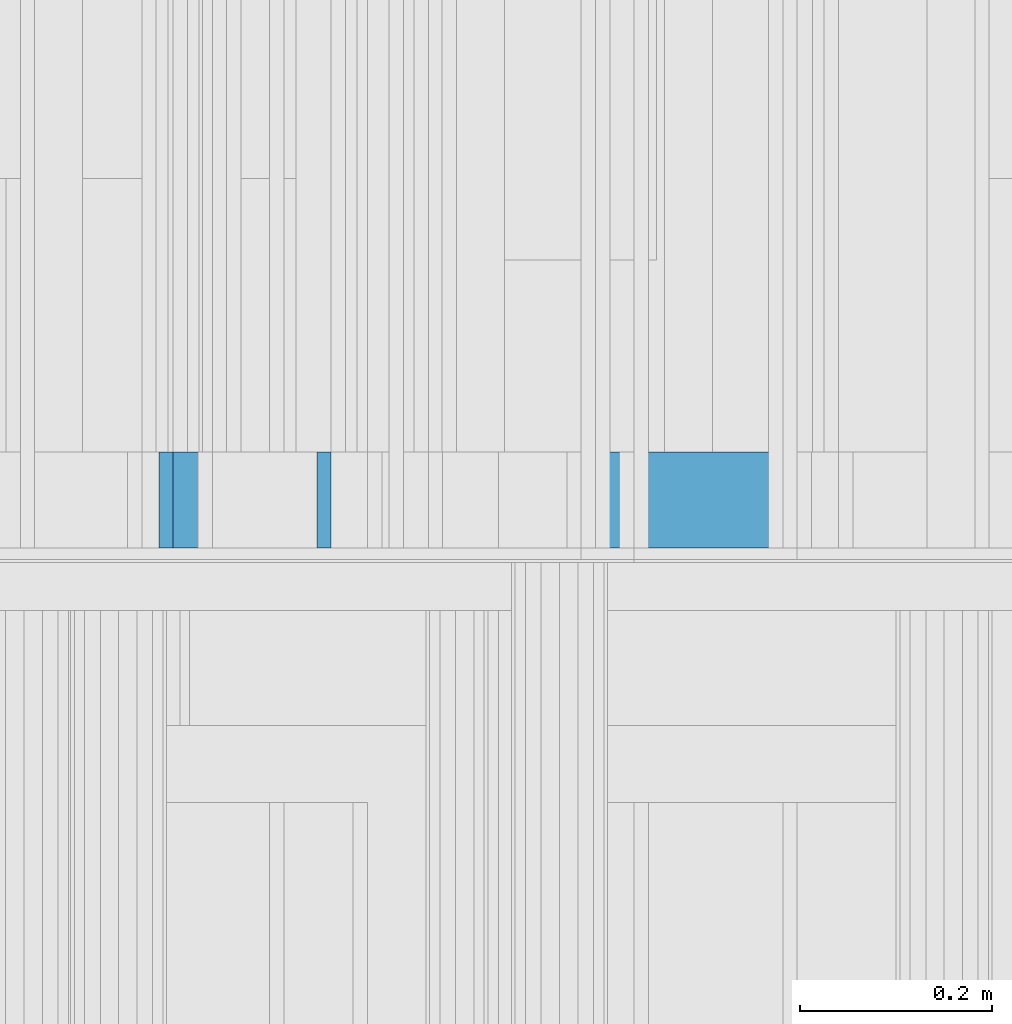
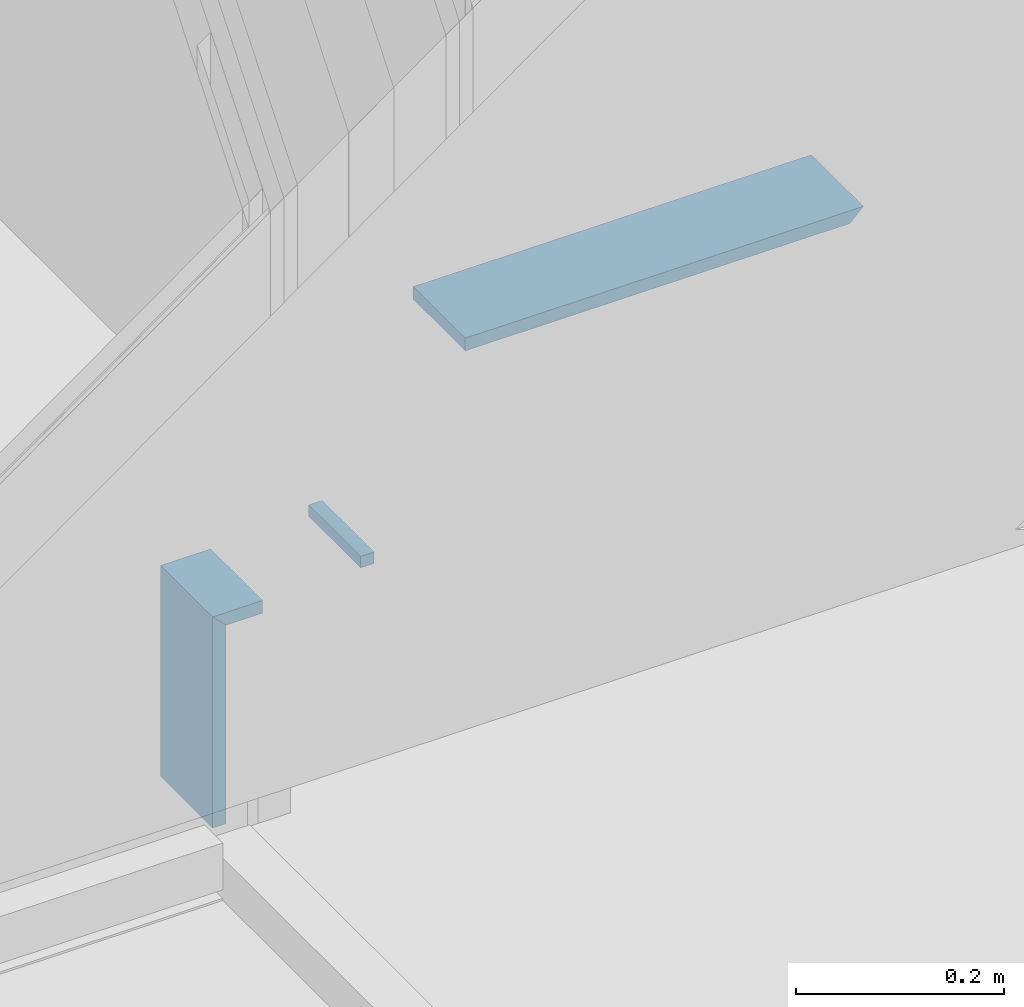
# One storey, part 228 of 583: 4 building element parts, 4 elements without a shape of their own.
"""IFC2X3 building model written with IfcOpenShell, lengths in metres."""

from ifc_helpers import new_model, entity, si_unit, converted_unit, derived_unit, money_unit, direction, frame, frame_2d, origin_with_axes, place, context, subcontext, project, spatial, polyline, rectangle, outline, extrude, material, type_object, element, aggregate, save


model = new_model("IFC2X3")

# Units and contexts
model_context = context("Model", 3, precision=1e-05, world=origin_with_axes(), true_north=direction((0.0, 1.0)))
body_context = subcontext(model_context, "Body", "Model", "MODEL_VIEW", scale=1.0)
ifc_project = project(units=[si_unit("LENGTHUNIT", "METRE"), si_unit("AREAUNIT", "SQUARE_METRE"), si_unit("VOLUMEUNIT", "CUBIC_METRE"), si_unit("ABSORBEDDOSEUNIT", "GRAY"), si_unit("AMOUNTOFSUBSTANCEUNIT", "MOLE"), si_unit("DOSEEQUIVALENTUNIT", "SIEVERT"), si_unit("ELECTRICCAPACITANCEUNIT", "FARAD"), si_unit("ELECTRICCHARGEUNIT", "COULOMB"), si_unit("ELECTRICCONDUCTANCEUNIT", "SIEMENS"), si_unit("ELECTRICCURRENTUNIT", "AMPERE"), si_unit("ELECTRICRESISTANCEUNIT", "OHM"), si_unit("ELECTRICVOLTAGEUNIT", "VOLT"), si_unit("ENERGYUNIT", "JOULE"), si_unit("FORCEUNIT", "NEWTON"), si_unit("FREQUENCYUNIT", "HERTZ"), si_unit("ILLUMINANCEUNIT", "LUX"), si_unit("INDUCTANCEUNIT", "HENRY"), si_unit("LUMINOUSFLUXUNIT", "LUMEN"), si_unit("LUMINOUSINTENSITYUNIT", "CANDELA"), si_unit("MAGNETICFLUXDENSITYUNIT", "TESLA"), si_unit("MAGNETICFLUXUNIT", "WEBER"), si_unit("MASSUNIT", "GRAM"), converted_unit("PLANEANGLEUNIT", "degree", entity("IfcReal", 0.0174532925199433), si_unit("PLANEANGLEUNIT", "RADIAN"), dimensions=[0, 0, 0, 0, 0, 0, 0]), si_unit("POWERUNIT", "WATT"), si_unit("PRESSUREUNIT", "PASCAL"), si_unit("RADIOACTIVITYUNIT", "BECQUEREL"), si_unit("SOLIDANGLEUNIT", "STERADIAN"), si_unit("THERMODYNAMICTEMPERATUREUNIT", "KELVIN"), si_unit("TIMEUNIT", "SECOND"), derived_unit("ACCELERATIONUNIT", [(si_unit("LENGTHUNIT", "METRE"), 1), (si_unit("TIMEUNIT", "SECOND"), -2)]), derived_unit("ANGULARVELOCITYUNIT", [(converted_unit("PLANEANGLEUNIT", "degree", entity("IfcReal", 0.0174532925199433), si_unit("PLANEANGLEUNIT", "RADIAN"), dimensions=[0, 0, 0, 0, 0, 0, 0]), 1), (si_unit("TIMEUNIT", "SECOND"), -1)]), derived_unit("CURVATUREUNIT", [(converted_unit("PLANEANGLEUNIT", "degree", entity("IfcReal", 0.0174532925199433), si_unit("PLANEANGLEUNIT", "RADIAN"), dimensions=[0, 0, 0, 0, 0, 0, 0]), 1), (si_unit("LENGTHUNIT", "METRE"), -1)]), derived_unit("DYNAMICVISCOSITYUNIT", [(si_unit("PRESSUREUNIT", "PASCAL"), 1), (si_unit("TIMEUNIT", "SECOND"), 1)]), derived_unit("HEATFLUXDENSITYUNIT", [(si_unit("POWERUNIT", "WATT"), 1), (si_unit("LENGTHUNIT", "METRE"), -2)]), derived_unit("HEATINGVALUEUNIT", [(si_unit("ENERGYUNIT", "JOULE"), 1), (si_unit("MASSUNIT", "GRAM"), -1)]), derived_unit("INTEGERCOUNTRATEUNIT", [(si_unit("TIMEUNIT", "SECOND"), -1)]), derived_unit("IONCONCENTRATIONUNIT", [(si_unit("MASSUNIT", "GRAM"), 1), (si_unit("VOLUMEUNIT", "CUBIC_METRE"), -1)]), derived_unit("ISOTHERMALMOISTURECAPACITYUNIT", [(si_unit("VOLUMEUNIT", "CUBIC_METRE"), 1), (si_unit("MASSUNIT", "GRAM"), -1)]), derived_unit("KINEMATICVISCOSITYUNIT", [(si_unit("AREAUNIT", "SQUARE_METRE"), 1), (si_unit("TIMEUNIT", "SECOND"), -1)]), derived_unit("LINEARFORCEUNIT", [(si_unit("FORCEUNIT", "NEWTON"), 1), (si_unit("LENGTHUNIT", "METRE"), -1)]), derived_unit("LINEARMOMENTUNIT", [(si_unit("FORCEUNIT", "NEWTON"), 1), (si_unit("LENGTHUNIT", "METRE"), -1)]), derived_unit("LINEARSTIFFNESSUNIT", [(si_unit("FORCEUNIT", "NEWTON"), 1), (si_unit("LENGTHUNIT", "METRE"), -1)]), derived_unit("LINEARVELOCITYUNIT", [(si_unit("LENGTHUNIT", "METRE"), 1), (si_unit("TIMEUNIT", "SECOND"), -1)]), derived_unit("LUMINOUSINTENSITYDISTRIBUTIONUNIT", [(si_unit("LUMINOUSINTENSITYUNIT", "CANDELA"), 1), (si_unit("LUMINOUSFLUXUNIT", "LUMEN"), -1)]), derived_unit("MASSDENSITYUNIT", [(si_unit("MASSUNIT", "GRAM"), 1), (si_unit("VOLUMEUNIT", "CUBIC_METRE"), -1)]), derived_unit("MASSFLOWRATEUNIT", [(si_unit("MASSUNIT", "GRAM"), 1), (si_unit("TIMEUNIT", "SECOND"), -1)]), derived_unit("MASSPERLENGTHUNIT", [(si_unit("MASSUNIT", "GRAM"), 1), (si_unit("LENGTHUNIT", "METRE"), -1)]), derived_unit("MODULUSOFELASTICITYUNIT", [(si_unit("FORCEUNIT", "NEWTON"), 1), (si_unit("AREAUNIT", "SQUARE_METRE"), -1)]), derived_unit("MODULUSOFLINEARSUBGRADEREACTIONUNIT", [(si_unit("FORCEUNIT", "NEWTON"), 1), (si_unit("LENGTHUNIT", "METRE"), -2)]), derived_unit("MODULUSOFROTATIONALSUBGRADEREACTIONUNIT", [(si_unit("FORCEUNIT", "NEWTON"), 1), (si_unit("LENGTHUNIT", "METRE"), 1)]), derived_unit("MODULUSOFSUBGRADEREACTIONUNIT", [(si_unit("FORCEUNIT", "NEWTON"), 1), (si_unit("VOLUMEUNIT", "CUBIC_METRE"), -1)]), derived_unit("MOISTUREDIFFUSIVITYUNIT", [(si_unit("VOLUMEUNIT", "CUBIC_METRE"), 1), (si_unit("TIMEUNIT", "SECOND"), -1)]), derived_unit("MOLECULARWEIGHTUNIT", [(si_unit("MASSUNIT", "GRAM"), 1), (si_unit("AMOUNTOFSUBSTANCEUNIT", "MOLE"), -1)]), derived_unit("PLANARFORCEUNIT", [(si_unit("FORCEUNIT", "NEWTON"), 1), (si_unit("LENGTHUNIT", "METRE"), -2)]), derived_unit("ROTATIONALFREQUENCYUNIT", [(si_unit("TIMEUNIT", "SECOND"), -1)]), derived_unit("ROTATIONALMASSUNIT", [(si_unit("MASSUNIT", "GRAM"), 1), (si_unit("LENGTHUNIT", "METRE"), 2)]), derived_unit("ROTATIONALSTIFFNESSUNIT", [(si_unit("FORCEUNIT", "NEWTON"), 1), (si_unit("LENGTHUNIT", "METRE"), 1), (converted_unit("PLANEANGLEUNIT", "degree", entity("IfcReal", 0.0174532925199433), si_unit("PLANEANGLEUNIT", "RADIAN"), dimensions=[0, 0, 0, 0, 0, 0, 0]), -1)]), derived_unit("SECTIONAREAINTEGRALUNIT", [(si_unit("LENGTHUNIT", "METRE"), 5)]), derived_unit("SECTIONMODULUSUNIT", [(si_unit("LENGTHUNIT", "METRE"), 3)]), derived_unit("SHEARMODULUSUNIT", [(si_unit("FORCEUNIT", "NEWTON"), 1), (si_unit("AREAUNIT", "SQUARE_METRE"), -1)]), derived_unit("SOUNDPOWERUNIT", [(si_unit("ENERGYUNIT", "JOULE"), 1), (si_unit("TIMEUNIT", "SECOND"), -1)]), derived_unit("SPECIFICHEATCAPACITYUNIT", [(si_unit("FORCEUNIT", "NEWTON"), 1), (si_unit("MASSUNIT", "GRAM"), -1), (si_unit("THERMODYNAMICTEMPERATUREUNIT", "KELVIN"), -1)]), derived_unit("TEMPERATUREGRADIENTUNIT", [(si_unit("THERMODYNAMICTEMPERATUREUNIT", "KELVIN"), 1), (si_unit("LENGTHUNIT", "METRE"), -1)]), derived_unit("THERMALADMITTANCEUNIT", [(si_unit("POWERUNIT", "WATT"), 1), (si_unit("AREAUNIT", "SQUARE_METRE"), -1), (si_unit("THERMODYNAMICTEMPERATUREUNIT", "KELVIN"), -1)]), derived_unit("THERMALCONDUCTANCEUNIT", [(si_unit("POWERUNIT", "WATT"), 1), (si_unit("LENGTHUNIT", "METRE"), -1), (si_unit("THERMODYNAMICTEMPERATUREUNIT", "KELVIN"), -1)]), derived_unit("THERMALEXPANSIONCOEFFICIENTUNIT", [(si_unit("THERMODYNAMICTEMPERATUREUNIT", "KELVIN"), -1)]), derived_unit("THERMALRESISTANCEUNIT", [(si_unit("AREAUNIT", "SQUARE_METRE"), 1), (si_unit("POWERUNIT", "WATT"), -1)]), derived_unit("THERMALTRANSMITTANCEUNIT", [(si_unit("POWERUNIT", "WATT"), 1), (si_unit("AREAUNIT", "SQUARE_METRE"), -1), (si_unit("THERMODYNAMICTEMPERATUREUNIT", "KELVIN"), -1)]), derived_unit("TORQUEUNIT", [(si_unit("FORCEUNIT", "NEWTON"), 1), (si_unit("LENGTHUNIT", "METRE"), 1)]), derived_unit("VAPORPERMEABILITYUNIT", [(si_unit("MASSUNIT", "GRAM"), 1), (si_unit("TIMEUNIT", "SECOND"), -1)]), derived_unit("VOLUMETRICFLOWRATEUNIT", [(si_unit("VOLUMEUNIT", "CUBIC_METRE"), 1), (si_unit("TIMEUNIT", "SECOND"), -1)]), derived_unit("WARPINGCONSTANTUNIT", [(si_unit("LENGTHUNIT", "METRE"), 6)]), derived_unit("WARPINGMOMENTUNIT", [(si_unit("FORCEUNIT", "NEWTON"), 1), (si_unit("LENGTHUNIT", "METRE"), 2)]), money_unit("GBP")], contexts=[model_context])

# Site, building, storey
site_placement = place(None, origin_with_axes())
site = spatial("IfcSite", under=ifc_project, at=site_placement, Name="Site", CompositionType="ELEMENT")
building_placement = place(site_placement, origin_with_axes())
building = spatial("IfcBuilding", under=site, at=building_placement, Name="Building01", CompositionType="ELEMENT")
storey_placement = place(building_placement, frame((0.0, 0.0, 20.78), z_axis=(0.0, 0.0, 1.0), x_axis=(1.0, 0.0, 0.0)))
storey = spatial("IfcBuildingStorey", under=building, at=storey_placement, Name="RL", CompositionType="ELEMENT", Elevation=20.78)

# Wall, building element part
wall_type = type_object("IfcWallType", Name="SHE_A-Walls_Type06f_ExternalWallInsulation_48+15mm", PredefinedType="NOTDEFINED")
wall_1_placement = place(storey_placement, frame((8.361548, 12.13, -20.280822), z_axis=(0.0, 1.0, 0.0), x_axis=(1.0, 0.0, 0.0)))
wall_1 = element("IfcWall", 1, at=wall_1_placement, inside=storey, type_object=wall_type, Name="6F", ObjectType="SHE_A-Walls_Type06f_ExternalWallInsulation_48+15mm")
ifc_material = material(Name="A_BSUK_Walls_Timber")
building_element_part_1_placement = place(wall_1_placement, origin_with_axes())
building_element_part_1 = element("IfcBuildingElementPart", 2, at=building_element_part_1_placement, material=ifc_material, Name="2", context=body_context, shape_type="SweptSolid", body=[
    extrude(outline(polyline([(0.501452, -0.063), (0.074121, -0.063), (0.074121, -0.078), (0.516452, -0.078), (0.501452, -0.063)])), frame((0.0, 0.0, 0.015), z_axis=(0.0, 0.0, 1.0), x_axis=(1.0, 0.0, 0.0)), (0.0, 0.0, 1.0), 0.1),
])
aggregate(wall_1, [building_element_part_1])

wall_2_placement = place(storey_placement, frame((8.397548, 12.13, -20.474), z_axis=(0.0, 1.0, 0.0), x_axis=(0.0, 0.0, 1.0)))
wall_2 = element("IfcWall", 3, at=wall_2_placement, inside=storey, type_object=wall_type, Name="6F", ObjectType="SHE_A-Walls_Type06f_ExternalWallInsulation_48+15mm")
building_element_part_2_placement = place(wall_2_placement, origin_with_axes())
building_element_part_2 = element("IfcBuildingElementPart", 4, at=building_element_part_2_placement, material=ifc_material, Name="2", context=body_context, shape_type="SweptSolid", body=[
    extrude(rectangle(XDim=0.015, YDim=0.013562, at=frame_2d((0.048781, -0.0705), x_axis=(0.0, -1.0))), frame((0.0, 0.0, 0.015), z_axis=(0.0, 0.0, 1.0), x_axis=(1.0, 0.0, 0.0)), (0.0, 0.0, 1.0), 0.1),
])
aggregate(wall_2, [building_element_part_2])

wall_3_placement = place(storey_placement, frame((8.233, 12.13, -20.68), z_axis=(0.0, 1.0, 0.0), x_axis=(0.0, 0.0, 1.0)))
wall_3 = element("IfcWall", 5, at=wall_3_placement, inside=storey, type_object=wall_type, Name="6F", ObjectType="SHE_A-Walls_Type06f_ExternalWallInsulation_48+15mm")
building_element_part_3_placement = place(wall_3_placement, origin_with_axes())
building_element_part_3 = element("IfcBuildingElementPart", 6, at=building_element_part_3_placement, material=ifc_material, Name="2", context=body_context, shape_type="SweptSolid", body=[
    extrude(outline(polyline([(0.233, -0.063), (0.0, -0.063), (0.0, -0.078), (0.248, -0.078), (0.233, -0.063)])), frame((0.0, 0.0, 0.015), z_axis=(0.0, 0.0, 1.0), x_axis=(1.0, 0.0, 0.0)), (0.0, 0.0, 1.0), 0.1),
])
aggregate(wall_3, [building_element_part_3])

wall_4_placement = place(storey_placement, frame((8.233, 12.13, -20.51), z_axis=(0.0, 1.0, 0.0), x_axis=(1.0, 0.0, 0.0)))
wall_4 = element("IfcWall", 7, at=wall_4_placement, inside=storey, type_object=wall_type, Name="6F", ObjectType="SHE_A-Walls_Type06f_ExternalWallInsulation_48+15mm")
building_element_part_4_placement = place(wall_4_placement, origin_with_axes())
building_element_part_4 = element("IfcBuildingElementPart", 8, at=building_element_part_4_placement, material=ifc_material, Name="2", context=body_context, shape_type="SweptSolid", body=[
    extrude(outline(polyline([(-0.063, -0.063), (-0.078, -0.078), (-0.02233, -0.078), (-0.02233, -0.063), (-0.063, -0.063)])), frame((0.0, 0.0, 0.015), z_axis=(0.0, 0.0, 1.0), x_axis=(1.0, 0.0, 0.0)), (0.0, 0.0, 1.0), 0.1),
])
aggregate(wall_4, [building_element_part_4])

save(model, "model.ifc")
